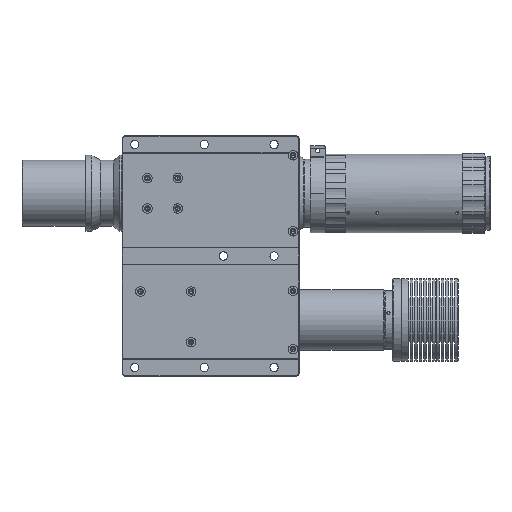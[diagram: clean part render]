
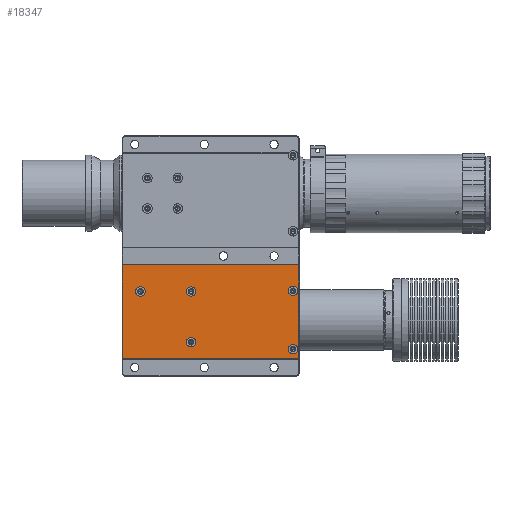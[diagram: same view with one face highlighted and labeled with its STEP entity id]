
A CAD part, front view. The second image highlights one B-rep face of the part: STEP entity #18347.
In plain terms, the highlighted planar face has unit normal (0, -1, 0).
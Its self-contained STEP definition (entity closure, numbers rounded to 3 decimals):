
#245 = VERTEX_POINT ( 'NONE', #6195 ) ;
#930 = DIRECTION ( 'NONE',  ( -1., 0., 0. ) ) ;
#1407 = CIRCLE ( 'NONE', #23391, 3.75 ) ;
#3044 = DIRECTION ( 'NONE',  ( 0., 1., 0. ) ) ;
#3237 = EDGE_LOOP ( 'NONE', ( #38907, #34280 ) ) ;
#3573 = EDGE_LOOP ( 'NONE', ( #11552, #32117, #23799, #17754 ) ) ;
#4044 = CIRCLE ( 'NONE', #23001, 3.75 ) ;
#4066 = CARTESIAN_POINT ( 'NONE',  ( 79.47, -41.5, -56.5 ) ) ;
#4148 = CARTESIAN_POINT ( 'NONE',  ( 73.142, -41.5, -130.5 ) ) ;
#4532 = CARTESIAN_POINT ( 'NONE',  ( 217.72, -41.5, -77. ) ) ;
#4616 = CARTESIAN_POINT ( 'NONE',  ( 148.97, -41.5, -49.5 ) ) ;
#5915 = CARTESIAN_POINT ( 'NONE',  ( 133.47, -41.5, -77.5 ) ) ;
#6016 = CIRCLE ( 'NONE', #9280, 3.75 ) ;
#6195 = CARTESIAN_POINT ( 'NONE',  ( 210.22, -41.5, -123. ) ) ;
#6211 = EDGE_LOOP ( 'NONE', ( #51768, #38177 ) ) ;
#6387 = ORIENTED_EDGE ( 'NONE', *, *, #42620, .T. ) ;
#6733 = EDGE_CURVE ( 'NONE', #245, #22796, #6016, .T. ) ;
#7107 = CIRCLE ( 'NONE', #8651, 3.75 ) ;
#7718 = VERTEX_POINT ( 'NONE', #46382 ) ;
#7929 = DIRECTION ( 'NONE',  ( -1., 0., 0. ) ) ;
#7961 = DIRECTION ( 'NONE',  ( 0., 1., 0. ) ) ;
#8188 = CARTESIAN_POINT ( 'NONE',  ( 218.47, -41.5, -56.5 ) ) ;
#8577 = ORIENTED_EDGE ( 'NONE', *, *, #11227, .T. ) ;
#8651 = AXIS2_PLACEMENT_3D ( 'NONE', #11706, #48700, #48520 ) ;
#8997 = EDGE_CURVE ( 'NONE', #42162, #7718, #7107, .T. ) ;
#9107 = CARTESIAN_POINT ( 'NONE',  ( 213.97, -41.5, -77. ) ) ;
#9280 = AXIS2_PLACEMENT_3D ( 'NONE', #28296, #32422, #7929 ) ;
#9289 = DIRECTION ( 'NONE',  ( 0., -1., 0. ) ) ;
#10470 = DIRECTION ( 'NONE',  ( 0., 1., 0. ) ) ;
#11227 = EDGE_CURVE ( 'NONE', #22796, #245, #43330, .T. ) ;
#11552 = ORIENTED_EDGE ( 'NONE', *, *, #21381, .T. ) ;
#11706 = CARTESIAN_POINT ( 'NONE',  ( 133.47, -41.5, -117.5 ) ) ;
#12156 = DIRECTION ( 'NONE',  ( -1., 0., 0. ) ) ;
#12632 = DIRECTION ( 'NONE',  ( 0., 0., 1. ) ) ;
#12868 = DIRECTION ( 'NONE',  ( -1., 0., 0. ) ) ;
#13203 = DIRECTION ( 'NONE',  ( -1., 0., 0. ) ) ;
#13329 = AXIS2_PLACEMENT_3D ( 'NONE', #19410, #10470, #35473 ) ;
#13446 = LINE ( 'NONE', #8188, #35848 ) ;
#13649 = VECTOR ( 'NONE', #43625, 1000. ) ;
#14225 = VERTEX_POINT ( 'NONE', #16244 ) ;
#14682 = EDGE_CURVE ( 'NONE', #51941, #28726, #23324, .T. ) ;
#16244 = CARTESIAN_POINT ( 'NONE',  ( 218.47, -41.5, -130.5 ) ) ;
#16409 = LINE ( 'NONE', #29883, #27886 ) ;
#17754 = ORIENTED_EDGE ( 'NONE', *, *, #35154, .T. ) ;
#17759 = CARTESIAN_POINT ( 'NONE',  ( 218.47, -41.5, -56.5 ) ) ;
#17896 = DIRECTION ( 'NONE',  ( 0., 1., 0. ) ) ;
#18347 = ADVANCED_FACE ( 'NONE', ( #22355, #42824, #51166, #50493, #31949, #52434 ), #33778, .T. ) ;
#18348 = VERTEX_POINT ( 'NONE', #50056 ) ;
#19169 = EDGE_CURVE ( 'NONE', #18348, #14225, #51125, .T. ) ;
#19410 = CARTESIAN_POINT ( 'NONE',  ( 93.47, -41.5, -77.5 ) ) ;
#20925 = DIRECTION ( 'NONE',  ( 0., 1., 0. ) ) ;
#21381 = EDGE_CURVE ( 'NONE', #41061, #24722, #33455, .T. ) ;
#21983 = CARTESIAN_POINT ( 'NONE',  ( 89.72, -41.5, -77.5 ) ) ;
#22355 = FACE_BOUND ( 'NONE', #37145, .T. ) ;
#22796 = VERTEX_POINT ( 'NONE', #51168 ) ;
#23001 = AXIS2_PLACEMENT_3D ( 'NONE', #5915, #17896, #46164 ) ;
#23182 = DIRECTION ( 'NONE',  ( 0., 1., 0. ) ) ;
#23324 = CIRCLE ( 'NONE', #13329, 3.75 ) ;
#23391 = AXIS2_PLACEMENT_3D ( 'NONE', #48885, #7961, #52675 ) ;
#23534 = VERTEX_POINT ( 'NONE', #30805 ) ;
#23799 = ORIENTED_EDGE ( 'NONE', *, *, #19169, .T. ) ;
#24365 = CARTESIAN_POINT ( 'NONE',  ( 129.72, -41.5, -117.5 ) ) ;
#24722 = VERTEX_POINT ( 'NONE', #4066 ) ;
#25615 = CARTESIAN_POINT ( 'NONE',  ( 213.97, -41.5, -77. ) ) ;
#26150 = DIRECTION ( 'NONE',  ( 0., 1., 0. ) ) ;
#26417 = ORIENTED_EDGE ( 'NONE', *, *, #38308, .T. ) ;
#26776 = VECTOR ( 'NONE', #32806, 1000. ) ;
#27654 = CARTESIAN_POINT ( 'NONE',  ( 137.22, -41.5, -77.5 ) ) ;
#27744 = EDGE_LOOP ( 'NONE', ( #28969, #6387 ) ) ;
#27886 = VECTOR ( 'NONE', #46853, 1000. ) ;
#28296 = CARTESIAN_POINT ( 'NONE',  ( 213.97, -41.5, -123. ) ) ;
#28726 = VERTEX_POINT ( 'NONE', #21983 ) ;
#28969 = ORIENTED_EDGE ( 'NONE', *, *, #31058, .T. ) ;
#28971 = CARTESIAN_POINT ( 'NONE',  ( 133.47, -41.5, -117.5 ) ) ;
#29061 = AXIS2_PLACEMENT_3D ( 'NONE', #9107, #45598, #13203 ) ;
#29883 = CARTESIAN_POINT ( 'NONE',  ( 79.47, -41.5, -130.5 ) ) ;
#29905 = EDGE_CURVE ( 'NONE', #7718, #42162, #47133, .T. ) ;
#30805 = CARTESIAN_POINT ( 'NONE',  ( 210.22, -41.5, -77. ) ) ;
#31058 = EDGE_CURVE ( 'NONE', #23534, #38561, #33594, .T. ) ;
#31317 = AXIS2_PLACEMENT_3D ( 'NONE', #25615, #26150, #930 ) ;
#31702 = DIRECTION ( 'NONE',  ( -1., 0., 0. ) ) ;
#31949 = FACE_BOUND ( 'NONE', #40607, .T. ) ;
#32117 = ORIENTED_EDGE ( 'NONE', *, *, #43509, .T. ) ;
#32422 = DIRECTION ( 'NONE',  ( 0., 1., 0. ) ) ;
#32806 = DIRECTION ( 'NONE',  ( 1., 0., 0. ) ) ;
#33455 = LINE ( 'NONE', #35020, #13649 ) ;
#33594 = CIRCLE ( 'NONE', #31317, 3.75 ) ;
#33778 = PLANE ( 'NONE',  #42926 ) ;
#34280 = ORIENTED_EDGE ( 'NONE', *, *, #37491, .T. ) ;
#34717 = CIRCLE ( 'NONE', #51142, 3.75 ) ;
#35020 = CARTESIAN_POINT ( 'NONE',  ( 227.626, -41.5, -56.5 ) ) ;
#35154 = EDGE_CURVE ( 'NONE', #14225, #41061, #13446, .T. ) ;
#35473 = DIRECTION ( 'NONE',  ( -1., 0., 0. ) ) ;
#35848 = VECTOR ( 'NONE', #12632, 1000. ) ;
#37145 = EDGE_LOOP ( 'NONE', ( #42932, #8577 ) ) ;
#37491 = EDGE_CURVE ( 'NONE', #51962, #38219, #4044, .T. ) ;
#38177 = ORIENTED_EDGE ( 'NONE', *, *, #29905, .T. ) ;
#38219 = VERTEX_POINT ( 'NONE', #38731 ) ;
#38308 = EDGE_CURVE ( 'NONE', #28726, #51941, #34717, .T. ) ;
#38561 = VERTEX_POINT ( 'NONE', #4532 ) ;
#38731 = CARTESIAN_POINT ( 'NONE',  ( 129.72, -41.5, -77.5 ) ) ;
#38907 = ORIENTED_EDGE ( 'NONE', *, *, #39355, .T. ) ;
#39355 = EDGE_CURVE ( 'NONE', #38219, #51962, #1407, .T. ) ;
#40607 = EDGE_LOOP ( 'NONE', ( #26417, #47365 ) ) ;
#41061 = VERTEX_POINT ( 'NONE', #17759 ) ;
#42162 = VERTEX_POINT ( 'NONE', #24365 ) ;
#42620 = EDGE_CURVE ( 'NONE', #38561, #23534, #47194, .T. ) ;
#42824 = FACE_BOUND ( 'NONE', #27744, .T. ) ;
#42926 = AXIS2_PLACEMENT_3D ( 'NONE', #4616, #9289, #12868 ) ;
#42932 = ORIENTED_EDGE ( 'NONE', *, *, #6733, .T. ) ;
#43330 = CIRCLE ( 'NONE', #46091, 3.75 ) ;
#43386 = DIRECTION ( 'NONE',  ( -1., 0., 0. ) ) ;
#43509 = EDGE_CURVE ( 'NONE', #24722, #18348, #16409, .T. ) ;
#43625 = DIRECTION ( 'NONE',  ( -1., 0., 0. ) ) ;
#45366 = AXIS2_PLACEMENT_3D ( 'NONE', #28971, #20925, #12156 ) ;
#45598 = DIRECTION ( 'NONE',  ( 0., 1., 0. ) ) ;
#46091 = AXIS2_PLACEMENT_3D ( 'NONE', #47787, #3044, #31702 ) ;
#46164 = DIRECTION ( 'NONE',  ( -1., 0., 0. ) ) ;
#46382 = CARTESIAN_POINT ( 'NONE',  ( 137.22, -41.5, -117.5 ) ) ;
#46853 = DIRECTION ( 'NONE',  ( 0., 0., -1. ) ) ;
#47133 = CIRCLE ( 'NONE', #45366, 3.75 ) ;
#47194 = CIRCLE ( 'NONE', #29061, 3.75 ) ;
#47316 = CARTESIAN_POINT ( 'NONE',  ( 93.47, -41.5, -77.5 ) ) ;
#47365 = ORIENTED_EDGE ( 'NONE', *, *, #14682, .T. ) ;
#47787 = CARTESIAN_POINT ( 'NONE',  ( 213.97, -41.5, -123. ) ) ;
#48520 = DIRECTION ( 'NONE',  ( -1., 0., 0. ) ) ;
#48700 = DIRECTION ( 'NONE',  ( 0., 1., 0. ) ) ;
#48885 = CARTESIAN_POINT ( 'NONE',  ( 133.47, -41.5, -77.5 ) ) ;
#50056 = CARTESIAN_POINT ( 'NONE',  ( 79.47, -41.5, -130.5 ) ) ;
#50493 = FACE_BOUND ( 'NONE', #3237, .T. ) ;
#51125 = LINE ( 'NONE', #4148, #26776 ) ;
#51142 = AXIS2_PLACEMENT_3D ( 'NONE', #47316, #23182, #43386 ) ;
#51166 = FACE_BOUND ( 'NONE', #6211, .T. ) ;
#51168 = CARTESIAN_POINT ( 'NONE',  ( 217.72, -41.5, -123. ) ) ;
#51496 = CARTESIAN_POINT ( 'NONE',  ( 97.22, -41.5, -77.5 ) ) ;
#51768 = ORIENTED_EDGE ( 'NONE', *, *, #8997, .T. ) ;
#51941 = VERTEX_POINT ( 'NONE', #51496 ) ;
#51962 = VERTEX_POINT ( 'NONE', #27654 ) ;
#52434 = FACE_OUTER_BOUND ( 'NONE', #3573, .T. ) ;
#52675 = DIRECTION ( 'NONE',  ( -1., 0., 0. ) ) ;
